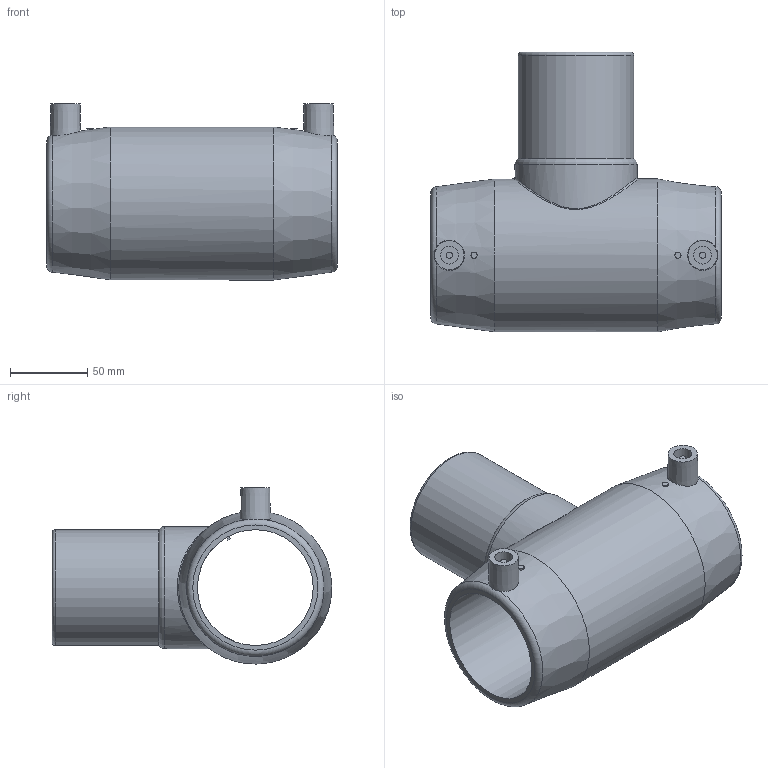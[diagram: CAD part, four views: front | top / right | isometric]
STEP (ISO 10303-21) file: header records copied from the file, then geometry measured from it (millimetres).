
FILE_DESCRIPTION(/* description */ ('Unknown'),/* implementation_level */ '2;1');
FILE_NAME(/* name */ 'TEP075C',/* time_stamp */ '2021-04-02T10:11:16+02:00',/* author */ ('Unknown'),/* organization */ ('Unknown'),/* preprocessor_version */ 'ST-DEVELOPER v16.7',/* originating_system */ 'Solid Edge',/* authorisation */ 'Unknown');
FILE_SCHEMA (('AUTOMOTIVE_DESIGN {1 0 10303 214 3 1 1}'));
Length unit declared in the file: millimetre
Products named in the file (1): TEP075C
Bounding box: 188 x 181 x 114 mm (x, y, z)
Volume: 657247.8 mm3; surface area: 142084.7 mm2
Topology: 1 solids, 1 shells, 36 faces, 77 edges, 50 vertices
Faces by surface type: plane 16, cylinder 11, torus 4, cone 4, bspline 1
Full cylindrical faces by diameter (mm): 4 x4, 11.5 x2, 61.4 x1, 75 x2, 79 x1, 99 x1
Entity records: 1205 total; most frequent: CARTESIAN_POINT 531, DIRECTION 136, ORIENTED_EDGE 92, EDGE_LOOP 68, FACE_BOUND 68, AXIS2_PLACEMENT_3D 63, EDGE_CURVE 46, VERTEX_POINT 40
